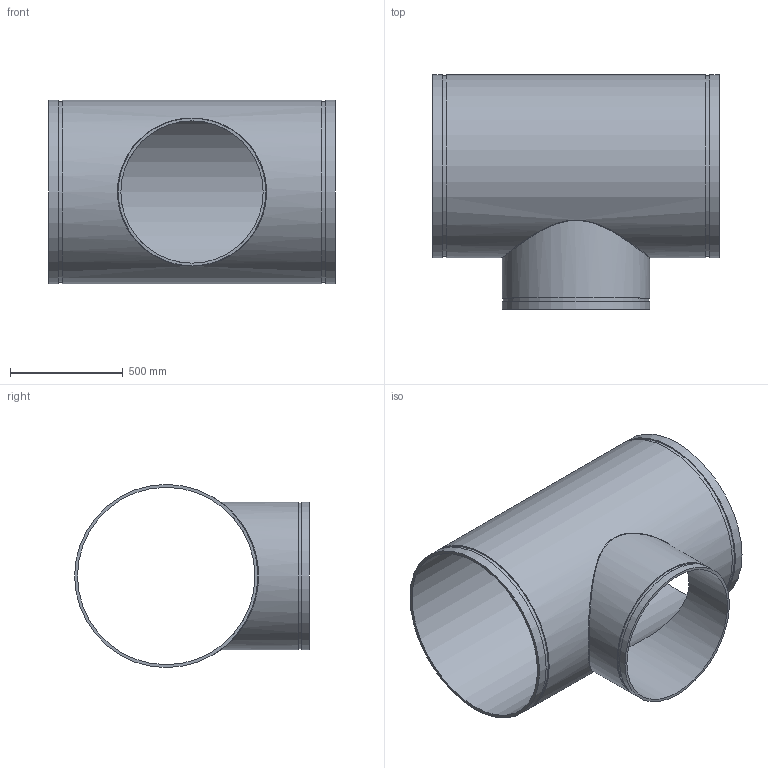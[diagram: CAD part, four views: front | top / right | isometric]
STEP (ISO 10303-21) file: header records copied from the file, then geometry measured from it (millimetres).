
FILE_DESCRIPTION(/* description */ ('VIC REDUCING TEE No 25-C','CAx-IF Rec.Pracs.---Representation and Presentation of Product Manufacturing Information (PMI)---4.0---2014-10-13'),/* implementation_level */ '2;1');
FILE_NAME(/* name */ 'C:\Users\Vjadhav\AppData\Roaming\Autodesk\ApplicationPlugins\Back Up\Victaulic_AWWA_Tee Reducing_No 25-C (DRG)\Victaulic_AWWA_Tee Reducing_No 25-C (DRG)_30.0x24.0 (750x600).stp',/* time_stamp */ '2020-08-18T18:19:25+06:00',/* author */ ('CORINNE GRAY'),/* organization */ ('Victaulic'),/* preprocessor_version */ 'ST-DEVELOPER v17.2',/* originating_system */ 'Autodesk Inventor 2019',/* authorisation */ '');
FILE_SCHEMA (('AP242_MANAGED_MODEL_BASED_3D_ENGINEERING_MIM_LF { 1 0 10303 442 1 1 4 }'));
Length unit declared in the file: inch
Products named in the file (1): 25C-30.0x24.0
Bounding box: 1270 x 1041.4 x 812.8 mm (x, y, z)
Volume: 43436949.4 mm3; surface area: 7080916.2 mm2
Topology: 1 solids, 1 shells, 20 faces, 44 edges, 33 vertices
Faces by surface type: cylinder 10, plane 9, bspline 1
Full cylindrical faces by diameter (mm): 631.444 x1, 645.312 x1, 655.32 x2, 786.892 x1, 801.37 x2, 812.8 x3
Entity records: 1227 total; most frequent: CARTESIAN_POINT 603, DIRECTION 135, ORIENTED_EDGE 90, AXIS2_PLACEMENT_3D 62, EDGE_CURVE 45, VERTEX_POINT 34, EDGE_LOOP 31, CIRCLE 29
